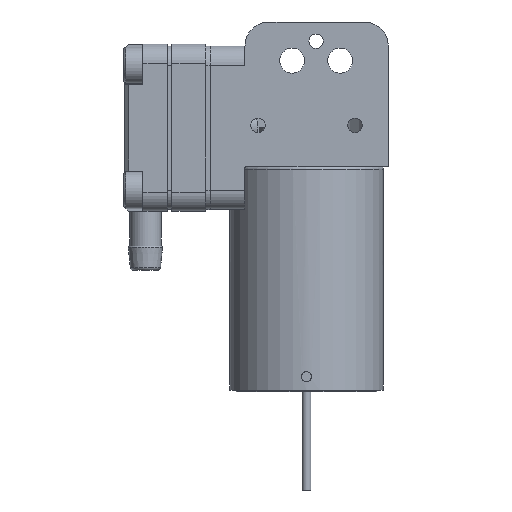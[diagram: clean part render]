
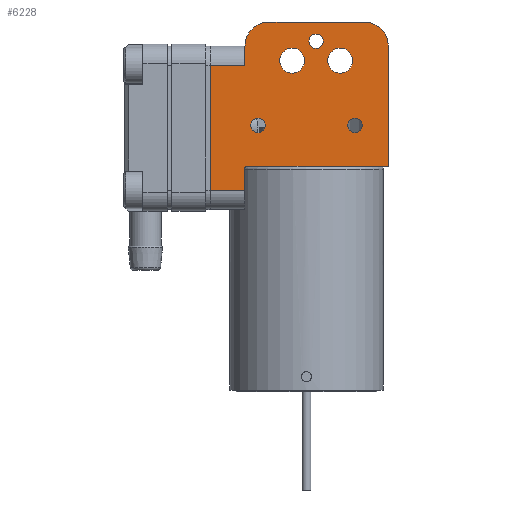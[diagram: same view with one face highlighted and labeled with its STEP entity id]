
A CAD part, front view. The second image highlights one B-rep face of the part: STEP entity #6228.
In plain terms, the highlighted planar face has unit normal (0, -1, 0).
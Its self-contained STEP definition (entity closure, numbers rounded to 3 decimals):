
#259 = AXIS2_PLACEMENT_3D ( 'NONE', #6033, #1456, #8812 ) ;
#291 = CARTESIAN_POINT ( 'NONE',  ( 15.9, -17., 17. ) ) ;
#381 = AXIS2_PLACEMENT_3D ( 'NONE', #10319, #1380, #3137 ) ;
#515 = DIRECTION ( 'NONE',  ( 0., 0., 1. ) ) ;
#540 = DIRECTION ( 'NONE',  ( 0., 0., 1. ) ) ;
#630 = VERTEX_POINT ( 'NONE', #8826 ) ;
#698 = LINE ( 'NONE', #10646, #1533 ) ;
#740 = LINE ( 'NONE', #9811, #6287 ) ;
#934 = EDGE_CURVE ( 'NONE', #4460, #4460, #11661, .T. ) ;
#1118 = LINE ( 'NONE', #7539, #11641 ) ;
#1124 = DIRECTION ( 'NONE',  ( 0., 1., 0. ) ) ;
#1162 = CARTESIAN_POINT ( 'NONE',  ( 2.35, -17., 8.75 ) ) ;
#1278 = VECTOR ( 'NONE', #540, 1000. ) ;
#1288 = DIRECTION ( 'NONE',  ( 0., 1., 0. ) ) ;
#1292 = DIRECTION ( 'NONE',  ( -1., 0., 0. ) ) ;
#1380 = DIRECTION ( 'NONE',  ( 0., 1., 0. ) ) ;
#1432 = CARTESIAN_POINT ( 'NONE',  ( 3.5, -17., 17. ) ) ;
#1456 = DIRECTION ( 'NONE',  ( 0., 1., 0. ) ) ;
#1492 = VERTEX_POINT ( 'NONE', #10201 ) ;
#1533 = VECTOR ( 'NONE', #4435, 1000. ) ;
#1636 = ORIENTED_EDGE ( 'NONE', *, *, #8378, .T. ) ;
#1641 = CARTESIAN_POINT ( 'NONE',  ( 8.4, -17., 17.5 ) ) ;
#1729 = VERTEX_POINT ( 'NONE', #9114 ) ;
#1814 = EDGE_LOOP ( 'NONE', ( #2066 ) ) ;
#1822 = AXIS2_PLACEMENT_3D ( 'NONE', #4974, #3888, #1292 ) ;
#2066 = ORIENTED_EDGE ( 'NONE', *, *, #6900, .T. ) ;
#2110 = VECTOR ( 'NONE', #6676, 1000. ) ;
#2198 = AXIS2_PLACEMENT_3D ( 'NONE', #1641, #7996, #6439 ) ;
#2212 = VECTOR ( 'NONE', #8320, 1000. ) ;
#2281 = DIRECTION ( 'NONE',  ( -1., 0., 0. ) ) ;
#2385 = ORIENTED_EDGE ( 'NONE', *, *, #6474, .T. ) ;
#2414 = EDGE_CURVE ( 'NONE', #1492, #11403, #3323, .T. ) ;
#2421 = DIRECTION ( 'NONE',  ( 0., 1., 0. ) ) ;
#2742 = CARTESIAN_POINT ( 'NONE',  ( 1.6, -17., 8.75 ) ) ;
#2883 = EDGE_CURVE ( 'NONE', #6471, #6471, #9267, .T. ) ;
#2941 = EDGE_LOOP ( 'NONE', ( #5761 ) ) ;
#3012 = CARTESIAN_POINT ( 'NONE',  ( -1.6, -17., 15. ) ) ;
#3068 = LINE ( 'NONE', #3012, #2110 ) ;
#3109 = VERTEX_POINT ( 'NONE', #4484 ) ;
#3137 = DIRECTION ( 'NONE',  ( -1., 0., 0. ) ) ;
#3200 = EDGE_CURVE ( 'NONE', #3912, #3912, #3370, .T. ) ;
#3274 = VECTOR ( 'NONE', #10465, 1000. ) ;
#3305 = FACE_BOUND ( 'NONE', #2941, .T. ) ;
#3323 = CIRCLE ( 'NONE', #9646, 2.5 ) ;
#3331 = ORIENTED_EDGE ( 'NONE', *, *, #10001, .F. ) ;
#3367 = DIRECTION ( 'NONE',  ( 1., 0., 0. ) ) ;
#3370 = CIRCLE ( 'NONE', #2198, 0.75 ) ;
#3418 = EDGE_CURVE ( 'NONE', #4031, #7035, #4693, .T. ) ;
#3888 = DIRECTION ( 'NONE',  ( 0., 1., 0. ) ) ;
#3912 = VERTEX_POINT ( 'NONE', #7551 ) ;
#4031 = VERTEX_POINT ( 'NONE', #5584 ) ;
#4100 = AXIS2_PLACEMENT_3D ( 'NONE', #4275, #8792, #2281 ) ;
#4165 = FACE_OUTER_BOUND ( 'NONE', #8659, .T. ) ;
#4172 = EDGE_LOOP ( 'NONE', ( #1636 ) ) ;
#4241 = CARTESIAN_POINT ( 'NONE',  ( 1., -17., 15. ) ) ;
#4275 = CARTESIAN_POINT ( 'NONE',  ( -1.6, -17., 0. ) ) ;
#4390 = CIRCLE ( 'NONE', #10302, 2.5 ) ;
#4419 = DIRECTION ( 'NONE',  ( 0., 0., 1. ) ) ;
#4435 = DIRECTION ( 'NONE',  ( 0., 0., -1. ) ) ;
#4460 = VERTEX_POINT ( 'NONE', #8091 ) ;
#4484 = CARTESIAN_POINT ( 'NONE',  ( 1., -17., 4.3 ) ) ;
#4494 = CARTESIAN_POINT ( 'NONE',  ( 4.6, -17., 15.48 ) ) ;
#4693 = LINE ( 'NONE', #9209, #2212 ) ;
#4751 = DIRECTION ( 'NONE',  ( -1., 0., 0. ) ) ;
#4928 = EDGE_CURVE ( 'NONE', #11039, #11384, #698, .T. ) ;
#4962 = CARTESIAN_POINT ( 'NONE',  ( 3.5, -17., 19.5 ) ) ;
#4974 = CARTESIAN_POINT ( 'NONE',  ( 5.9, -17., 15.48 ) ) ;
#5086 = EDGE_CURVE ( 'NONE', #11384, #1729, #6820, .T. ) ;
#5098 = CARTESIAN_POINT ( 'NONE',  ( 1., -17., -3.64 ) ) ;
#5110 = CIRCLE ( 'NONE', #8930, 0.2 ) ;
#5124 = LINE ( 'NONE', #8745, #1278 ) ;
#5135 = VERTEX_POINT ( 'NONE', #4241 ) ;
#5219 = EDGE_LOOP ( 'NONE', ( #8215 ) ) ;
#5461 = CIRCLE ( 'NONE', #259, 1.3 ) ;
#5534 = CARTESIAN_POINT ( 'NONE',  ( 1.2, -17., 4.3 ) ) ;
#5584 = CARTESIAN_POINT ( 'NONE',  ( -2.6, -17., 2. ) ) ;
#5761 = ORIENTED_EDGE ( 'NONE', *, *, #2883, .T. ) ;
#6033 = CARTESIAN_POINT ( 'NONE',  ( 10.9, -17., 15.48 ) ) ;
#6055 = CIRCLE ( 'NONE', #1822, 1.3 ) ;
#6228 = ADVANCED_FACE ( 'NONE', ( #4165, #8035, #3305, #7791, #10547, #8737 ), #11431, .F. ) ;
#6271 = CARTESIAN_POINT ( 'NONE',  ( 13.4, -17., 17. ) ) ;
#6287 = VECTOR ( 'NONE', #4419, 1000. ) ;
#6315 = VERTEX_POINT ( 'NONE', #11005 ) ;
#6361 = ORIENTED_EDGE ( 'NONE', *, *, #11210, .F. ) ;
#6439 = DIRECTION ( 'NONE',  ( -1., 0., 0. ) ) ;
#6471 = VERTEX_POINT ( 'NONE', #2742 ) ;
#6474 = EDGE_CURVE ( 'NONE', #7035, #3109, #6836, .T. ) ;
#6505 = DIRECTION ( 'NONE',  ( -1., 0., 0. ) ) ;
#6588 = ORIENTED_EDGE ( 'NONE', *, *, #3418, .T. ) ;
#6676 = DIRECTION ( 'NONE',  ( -1., 0., 0. ) ) ;
#6697 = VERTEX_POINT ( 'NONE', #8694 ) ;
#6820 = LINE ( 'NONE', #8646, #3274 ) ;
#6836 = LINE ( 'NONE', #5098, #9446 ) ;
#6900 = EDGE_CURVE ( 'NONE', #630, #630, #5461, .T. ) ;
#7035 = VERTEX_POINT ( 'NONE', #11685 ) ;
#7098 = EDGE_LOOP ( 'NONE', ( #10852 ) ) ;
#7280 = EDGE_CURVE ( 'NONE', #3109, #1729, #5110, .T. ) ;
#7539 = CARTESIAN_POINT ( 'NONE',  ( 13.4, -17., 19.5 ) ) ;
#7551 = CARTESIAN_POINT ( 'NONE',  ( 7.65, -17., 17.5 ) ) ;
#7791 = FACE_BOUND ( 'NONE', #1814, .T. ) ;
#7996 = DIRECTION ( 'NONE',  ( 0., 1., 0. ) ) ;
#8035 = FACE_BOUND ( 'NONE', #7098, .T. ) ;
#8091 = CARTESIAN_POINT ( 'NONE',  ( 11.7, -17., 8.75 ) ) ;
#8215 = ORIENTED_EDGE ( 'NONE', *, *, #934, .T. ) ;
#8320 = DIRECTION ( 'NONE',  ( 1., 0., 0. ) ) ;
#8378 = EDGE_CURVE ( 'NONE', #9929, #9929, #6055, .T. ) ;
#8646 = CARTESIAN_POINT ( 'NONE',  ( 50.555, -17., 4.5 ) ) ;
#8659 = EDGE_LOOP ( 'NONE', ( #11069, #10544, #3331, #6588, #2385, #11146, #9783, #10714, #11739, #6361, #9362 ) ) ;
#8694 = CARTESIAN_POINT ( 'NONE',  ( -2.6, -17., 15. ) ) ;
#8737 = FACE_BOUND ( 'NONE', #5219, .T. ) ;
#8745 = CARTESIAN_POINT ( 'NONE',  ( -2.6, -17., 2. ) ) ;
#8792 = DIRECTION ( 'NONE',  ( 0., 1., 0. ) ) ;
#8812 = DIRECTION ( 'NONE',  ( -1., 0., 0. ) ) ;
#8826 = CARTESIAN_POINT ( 'NONE',  ( 9.6, -17., 15.48 ) ) ;
#8911 = DIRECTION ( 'NONE',  ( 0., 1., 0. ) ) ;
#8930 = AXIS2_PLACEMENT_3D ( 'NONE', #5534, #1124, #4751 ) ;
#9001 = DIRECTION ( 'NONE',  ( -1., 0., 0. ) ) ;
#9064 = EDGE_CURVE ( 'NONE', #5135, #6697, #3068, .T. ) ;
#9114 = CARTESIAN_POINT ( 'NONE',  ( 1.2, -17., 4.5 ) ) ;
#9209 = CARTESIAN_POINT ( 'NONE',  ( -1.6, -17., 2. ) ) ;
#9267 = CIRCLE ( 'NONE', #9674, 0.75 ) ;
#9362 = ORIENTED_EDGE ( 'NONE', *, *, #2414, .F. ) ;
#9446 = VECTOR ( 'NONE', #515, 1000. ) ;
#9646 = AXIS2_PLACEMENT_3D ( 'NONE', #1432, #8911, #3367 ) ;
#9674 = AXIS2_PLACEMENT_3D ( 'NONE', #1162, #1288, #6505 ) ;
#9744 = CARTESIAN_POINT ( 'NONE',  ( 15.9, -17., 4.5 ) ) ;
#9783 = ORIENTED_EDGE ( 'NONE', *, *, #5086, .F. ) ;
#9811 = CARTESIAN_POINT ( 'NONE',  ( 1., -17., 8.926 ) ) ;
#9929 = VERTEX_POINT ( 'NONE', #4494 ) ;
#10001 = EDGE_CURVE ( 'NONE', #4031, #6697, #5124, .T. ) ;
#10201 = CARTESIAN_POINT ( 'NONE',  ( 1., -17., 17. ) ) ;
#10302 = AXIS2_PLACEMENT_3D ( 'NONE', #6271, #2421, #9001 ) ;
#10319 = CARTESIAN_POINT ( 'NONE',  ( 12.45, -17., 8.75 ) ) ;
#10465 = DIRECTION ( 'NONE',  ( -1., 0., 0. ) ) ;
#10544 = ORIENTED_EDGE ( 'NONE', *, *, #9064, .T. ) ;
#10547 = FACE_BOUND ( 'NONE', #4172, .T. ) ;
#10646 = CARTESIAN_POINT ( 'NONE',  ( 15.9, -17., 6.8 ) ) ;
#10714 = ORIENTED_EDGE ( 'NONE', *, *, #4928, .F. ) ;
#10852 = ORIENTED_EDGE ( 'NONE', *, *, #3200, .T. ) ;
#10909 = EDGE_CURVE ( 'NONE', #5135, #1492, #740, .T. ) ;
#10975 = EDGE_CURVE ( 'NONE', #6315, #11039, #4390, .T. ) ;
#11005 = CARTESIAN_POINT ( 'NONE',  ( 13.4, -17., 19.5 ) ) ;
#11039 = VERTEX_POINT ( 'NONE', #291 ) ;
#11069 = ORIENTED_EDGE ( 'NONE', *, *, #10909, .F. ) ;
#11146 = ORIENTED_EDGE ( 'NONE', *, *, #7280, .T. ) ;
#11179 = DIRECTION ( 'NONE',  ( 1., 0., 0. ) ) ;
#11210 = EDGE_CURVE ( 'NONE', #11403, #6315, #1118, .T. ) ;
#11384 = VERTEX_POINT ( 'NONE', #9744 ) ;
#11403 = VERTEX_POINT ( 'NONE', #4962 ) ;
#11431 = PLANE ( 'NONE',  #4100 ) ;
#11641 = VECTOR ( 'NONE', #11179, 1000. ) ;
#11661 = CIRCLE ( 'NONE', #381, 0.75 ) ;
#11685 = CARTESIAN_POINT ( 'NONE',  ( 1., -17., 2. ) ) ;
#11739 = ORIENTED_EDGE ( 'NONE', *, *, #10975, .F. ) ;
